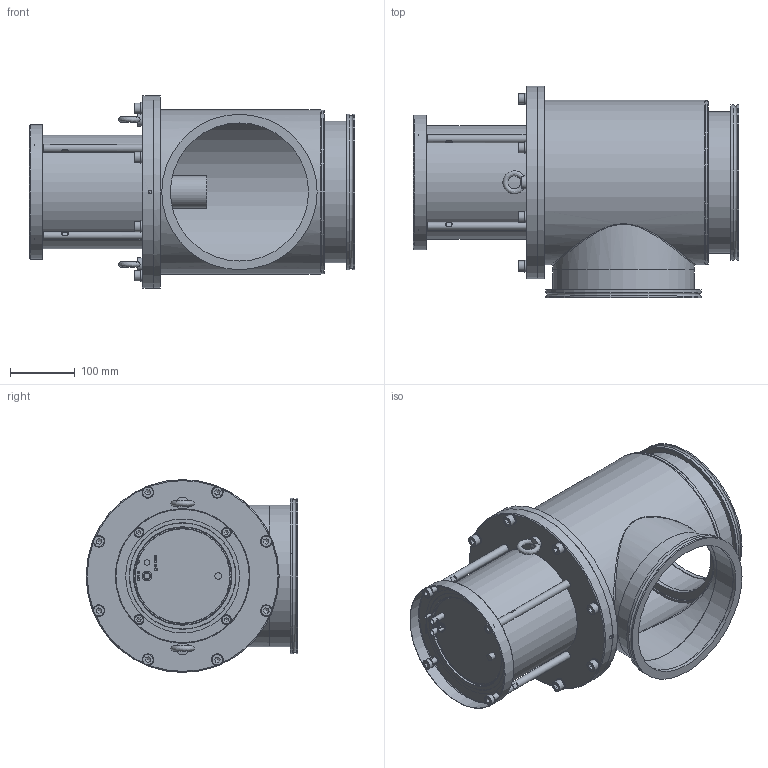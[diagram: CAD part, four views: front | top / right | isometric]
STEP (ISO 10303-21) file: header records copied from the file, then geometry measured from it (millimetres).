
FILE_DESCRIPTION(/* description */ (''),/* implementation_level */ '2;1');
FILE_NAME(/* name */ '1123330665_203.stp',/* time_stamp */ '2019-04-08T07:46:51+02:00',/* author */ (''),/* organization */ (''),/* preprocessor_version */ 'ST-DEVELOPER v16',/* originating_system */ 'SIEMENS PLM Software NX 11.0',/* authorisation */ '');
FILE_SCHEMA (('AP203_CONFIGURATION_CONTROLLED_3D_DESIGN_OF_MECHANICAL_PARTS_AND_ASSEMBLIES_MIM_LF { 1 0 10303 403 2 1 2}'));
Length unit declared in the file: millimetre
Products named in the file (17): 524275; 498864; 484239; 498875; 487799; 487825; 439305; 439333; 714792; n-6134-410; 218204.1; 224833.1; 377229; n-6033-003.1; 487828; 487835_MODEL; 791010
Assembly tree (38 placements, depth 4):
  791010
    n-6033-003.1  x2
    377229  x4
    224833.1  x4
    218204.1  x8
    n-6134-410  x8
    487835_MODEL
      487828
        487825
        487799
        498875
        484239
        498864
        524275  x2
    714792
    439333
    439305
Bounding box: 502.7 x 327 x 298 mm (x, y, z)
Volume: 3998497.3 mm3; surface area: 1192749 mm2
Topology: 60 solids, 60 shells, 611 faces, 1273 edges, 833 vertices
Faces by surface type: plane 321, cylinder 183, cone 56, torus 28, extrusion 19, bspline 4
Full cylindrical faces by diameter (mm): 4.2 x2, 5 x1, 6.66 x4, 6.7 x4, 6.8 x6, 7.7 x4, 8 x10, 8.36 x8, 8.4 x8, 8.5 x12, 8.566 x2, 9 x4, 10 x20, 10.15 x5, 10.5 x8, 11 x8, 12 x4, 13 x4, 14.55 x1, 15 x4, 16 x8, 18 x8, 20 x2, 26 x1, 28.005 x3, 28.2 x2, 34.4 x2, 50 x1, 151.5 x2, 160.125 x1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
Entity records: 13940 total; most frequent: CARTESIAN_POINT 3687, DIRECTION 1344, ORIENTED_EDGE 1072, AXIS2_PLACEMENT_3D 603, EDGE_LOOP 601, EDGE_CURVE 536, FACE_BOUND 492, VERTEX_POINT 444
